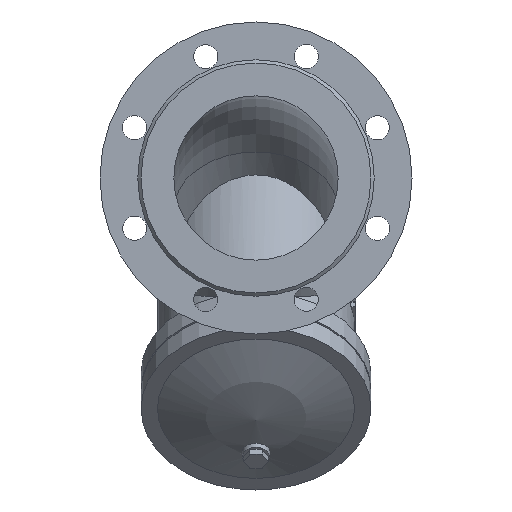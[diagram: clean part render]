
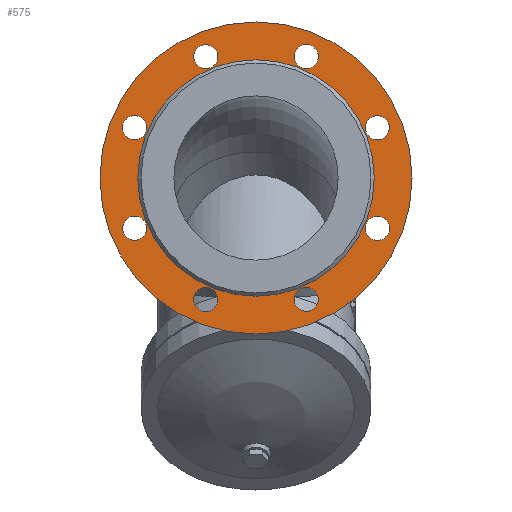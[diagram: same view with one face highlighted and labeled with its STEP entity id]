
A CAD part, front view. The second image highlights one B-rep face of the part: STEP entity #575.
In plain terms, the highlighted planar face has unit normal (0, -1, 0).
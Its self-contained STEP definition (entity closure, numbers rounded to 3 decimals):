
#575=ADVANCED_FACE('',(#1315,#1317,#1319,#1321,#1323,#1325,#1327,#1329,#1331,#1333),
#1335,.T.);
#1315=FACE_BOUND('',#1316,.T.);
#1316=EDGE_LOOP('',(#1788));
#1317=FACE_BOUND('',#1318,.T.);
#1318=EDGE_LOOP('',(#1789));
#1319=FACE_BOUND('',#1320,.T.);
#1320=EDGE_LOOP('',(#1790));
#1321=FACE_BOUND('',#1322,.T.);
#1322=EDGE_LOOP('',(#1791));
#1323=FACE_BOUND('',#1324,.T.);
#1324=EDGE_LOOP('',(#1792));
#1325=FACE_BOUND('',#1326,.T.);
#1326=EDGE_LOOP('',(#1793));
#1327=FACE_BOUND('',#1328,.T.);
#1328=EDGE_LOOP('',(#1794));
#1329=FACE_BOUND('',#1330,.T.);
#1330=EDGE_LOOP('',(#1795));
#1331=FACE_BOUND('',#1332,.T.);
#1332=EDGE_LOOP('',(#1796));
#1333=FACE_BOUND('',#1334,.T.);
#1334=EDGE_LOOP('',(#1797));
#1335=PLANE('',#1336);
#1336=AXIS2_PLACEMENT_3D('',#1337,#1338,#1339);
#1337=CARTESIAN_POINT('',(0.,-237.,0.));
#1338=DIRECTION('',(0.,-1.,0.));
#1339=DIRECTION('',(0.,0.,1.));
#1788=ORIENTED_EDGE('',*,*,#1980,.F.);
#1789=ORIENTED_EDGE('',*,*,#1988,.T.);
#1790=ORIENTED_EDGE('',*,*,#1987,.T.);
#1791=ORIENTED_EDGE('',*,*,#1986,.T.);
#1792=ORIENTED_EDGE('',*,*,#1985,.T.);
#1793=ORIENTED_EDGE('',*,*,#1984,.T.);
#1794=ORIENTED_EDGE('',*,*,#1983,.T.);
#1795=ORIENTED_EDGE('',*,*,#1982,.T.);
#1796=ORIENTED_EDGE('',*,*,#1999,.T.);
#1797=ORIENTED_EDGE('',*,*,#1981,.T.);
#1980=EDGE_CURVE('',#2213,#2213,#2214,.T.);
#1981=EDGE_CURVE('',#2215,#2215,#2216,.F.);
#1982=EDGE_CURVE('',#2217,#2217,#2218,.F.);
#1983=EDGE_CURVE('',#2219,#2219,#2220,.F.);
#1984=EDGE_CURVE('',#2221,#2221,#2222,.F.);
#1985=EDGE_CURVE('',#2223,#2223,#2224,.F.);
#1986=EDGE_CURVE('',#2225,#2225,#2226,.F.);
#1987=EDGE_CURVE('',#2227,#2227,#2228,.F.);
#1988=EDGE_CURVE('',#2229,#2229,#2230,.F.);
#1999=EDGE_CURVE('',#2251,#2251,#2252,.T.);
#2213=VERTEX_POINT('',#3562);
#2214=CIRCLE('',#3563,142.5);
#2215=VERTEX_POINT('',#3567);
#2216=CIRCLE('',#3568,11.);
#2217=VERTEX_POINT('',#3572);
#2218=CIRCLE('',#3573,11.);
#2219=VERTEX_POINT('',#3577);
#2220=CIRCLE('',#3578,11.);
#2221=VERTEX_POINT('',#3582);
#2222=CIRCLE('',#3583,11.);
#2223=VERTEX_POINT('',#3587);
#2224=CIRCLE('',#3588,11.);
#2225=VERTEX_POINT('',#3592);
#2226=CIRCLE('',#3593,11.);
#2227=VERTEX_POINT('',#3597);
#2228=CIRCLE('',#3598,11.);
#2229=VERTEX_POINT('',#3602);
#2230=CIRCLE('',#3603,11.);
#2251=VERTEX_POINT('',#3657);
#2252=CIRCLE('',#3658,108.);
#3562=CARTESIAN_POINT('',(0.,-237.,142.5));
#3563=AXIS2_PLACEMENT_3D('',#3564,#3565,#3566);
#3564=CARTESIAN_POINT('',(0.,-237.,0.));
#3565=DIRECTION('',(0.,1.,0.));
#3566=DIRECTION('',(0.,0.,1.));
#3567=CARTESIAN_POINT('',(-34.922,-237.,110.866));
#3568=AXIS2_PLACEMENT_3D('',#3569,#3570,#3571);
#3569=CARTESIAN_POINT('',(-45.922,-237.,110.866));
#3570=DIRECTION('',(0.,-1.,0.));
#3571=DIRECTION('',(1.,0.,0.));
#3572=CARTESIAN_POINT('',(-103.087,-237.,53.7));
#3573=AXIS2_PLACEMENT_3D('',#3574,#3575,#3576);
#3574=CARTESIAN_POINT('',(-110.866,-237.,45.922));
#3575=DIRECTION('',(0.,-1.,0.));
#3576=DIRECTION('',(0.707,0.,0.707));
#3577=CARTESIAN_POINT('',(-110.866,-237.,-34.922));
#3578=AXIS2_PLACEMENT_3D('',#3579,#3580,#3581);
#3579=CARTESIAN_POINT('',(-110.866,-237.,-45.922));
#3580=DIRECTION('',(0.,-1.,0.));
#3581=DIRECTION('',(0.,0.,1.));
#3582=CARTESIAN_POINT('',(-53.7,-237.,-103.087));
#3583=AXIS2_PLACEMENT_3D('',#3584,#3585,#3586);
#3584=CARTESIAN_POINT('',(-45.922,-237.,-110.866));
#3585=DIRECTION('',(0.,-1.,0.));
#3586=DIRECTION('',(-0.707,0.,0.707));
#3587=CARTESIAN_POINT('',(34.922,-237.,-110.866));
#3588=AXIS2_PLACEMENT_3D('',#3589,#3590,#3591);
#3589=CARTESIAN_POINT('',(45.922,-237.,-110.866));
#3590=DIRECTION('',(0.,-1.,0.));
#3591=DIRECTION('',(-1.,0.,0.));
#3592=CARTESIAN_POINT('',(103.087,-237.,-53.7));
#3593=AXIS2_PLACEMENT_3D('',#3594,#3595,#3596);
#3594=CARTESIAN_POINT('',(110.866,-237.,-45.922));
#3595=DIRECTION('',(0.,-1.,0.));
#3596=DIRECTION('',(-0.707,0.,-0.707));
#3597=CARTESIAN_POINT('',(110.866,-237.,34.922));
#3598=AXIS2_PLACEMENT_3D('',#3599,#3600,#3601);
#3599=CARTESIAN_POINT('',(110.866,-237.,45.922));
#3600=DIRECTION('',(0.,-1.,0.));
#3601=DIRECTION('',(0.,0.,-1.));
#3602=CARTESIAN_POINT('',(53.7,-237.,103.087));
#3603=AXIS2_PLACEMENT_3D('',#3604,#3605,#3606);
#3604=CARTESIAN_POINT('',(45.922,-237.,110.866));
#3605=DIRECTION('',(0.,-1.,0.));
#3606=DIRECTION('',(0.707,0.,-0.707));
#3657=CARTESIAN_POINT('',(0.,-237.,108.));
#3658=AXIS2_PLACEMENT_3D('',#3659,#3660,#3661);
#3659=CARTESIAN_POINT('',(0.,-237.,0.));
#3660=DIRECTION('',(0.,1.,0.));
#3661=DIRECTION('',(0.,0.,1.));
